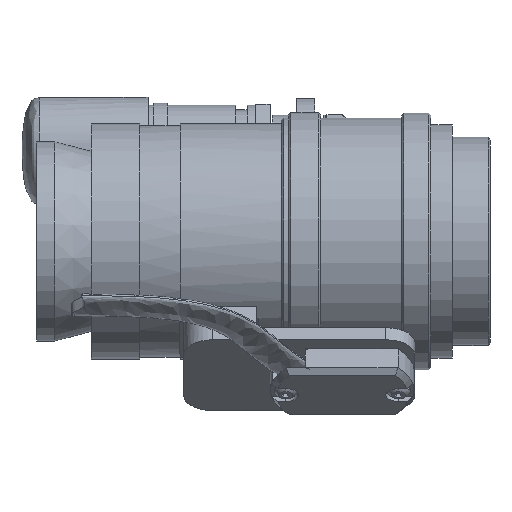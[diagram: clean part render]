
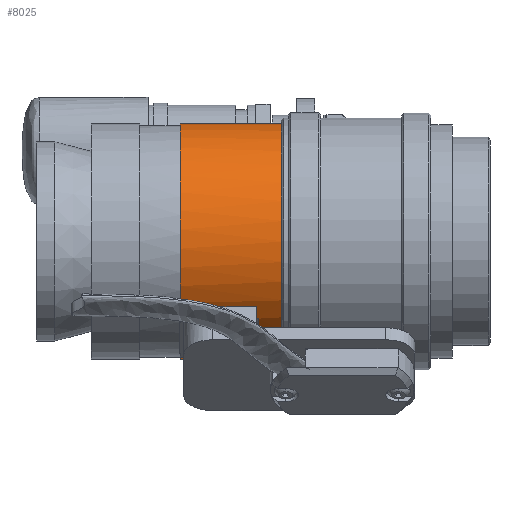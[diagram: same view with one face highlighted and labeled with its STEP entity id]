
A CAD part, left-side view. The second image highlights one B-rep face of the part: STEP entity #8025.
In plain terms, the highlighted cylindrical face has radius 20.637 mm (diameter 41.275 mm), a partial arc.
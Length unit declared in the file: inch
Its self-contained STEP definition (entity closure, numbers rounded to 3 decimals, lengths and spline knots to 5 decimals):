
#449 = VERTEX_POINT ( 'NONE', #4032 ) ;
#451 = VERTEX_POINT ( 'NONE', #7126 ) ;
#455 = VERTEX_POINT ( 'NONE', #4036 ) ;
#466 = VERTEX_POINT ( 'NONE', #4054 ) ;
#467 = VERTEX_POINT ( 'NONE', #4056 ) ;
#468 = VERTEX_POINT ( 'NONE', #4058 ) ;
#470 = VERTEX_POINT ( 'NONE', #4062 ) ;
#473 = VERTEX_POINT ( 'NONE', #4068 ) ;
#559 = ORIENTED_EDGE ( 'NONE', *, *, #1313, .F. ) ;
#570 = ORIENTED_EDGE ( 'NONE', *, *, #1326, .F. ) ;
#586 = ORIENTED_EDGE ( 'NONE', *, *, #1322, .T. ) ;
#592 = ORIENTED_EDGE ( 'NONE', *, *, #1327, .F. ) ;
#706 = ORIENTED_EDGE ( 'NONE', *, *, #1223, .F. ) ;
#1223 = EDGE_CURVE ( 'NONE', #6719, #6720, #3062, .T. ) ;
#1225 = EDGE_CURVE ( 'NONE', #4884, #6717, #3068, .T. ) ;
#1313 = EDGE_CURVE ( 'NONE', #451, #468, #2328, .T. ) ;
#1317 = EDGE_CURVE ( 'NONE', #455, #466, #5428, .T. ) ;
#1322 = EDGE_CURVE ( 'NONE', #6719, #468, #2056, .T. ) ;
#1325 = EDGE_CURVE ( 'NONE', #455, #4884, #2061, .T. ) ;
#1326 = EDGE_CURVE ( 'NONE', #449, #451, #5445, .T. ) ;
#1327 = EDGE_CURVE ( 'NONE', #470, #449, #5459, .T. ) ;
#1328 = EDGE_CURVE ( 'NONE', #470, #473, #2053, .T. ) ;
#1329 = EDGE_CURVE ( 'NONE', #467, #473, #5460, .T. ) ;
#1330 = EDGE_CURVE ( 'NONE', #466, #467, #5469, .T. ) ;
#1331 = EDGE_CURVE ( 'NONE', #6720, #6717, #2069, .T. ) ;
#2045 = VECTOR ( 'NONE', #5419, 39.37008 ) ;
#2050 = VECTOR ( 'NONE', #5430, 39.37008 ) ;
#2053 = CIRCLE ( 'NONE', #2067, 0.8125 ) ;
#2056 = CIRCLE ( 'NONE', #2059, 0.8125 ) ;
#2059 = AXIS2_PLACEMENT_3D ( 'NONE', #5447, #5448, #5449 ) ;
#2061 = CIRCLE ( 'NONE', #2063, 0.8125 ) ;
#2062 = VECTOR ( 'NONE', #5458, 39.37008 ) ;
#2063 = AXIS2_PLACEMENT_3D ( 'NONE', #5455, #5456, #5457 ) ;
#2064 = VECTOR ( 'NONE', #5462, 39.37008 ) ;
#2066 = VECTOR ( 'NONE', #5468, 39.37008 ) ;
#2067 = AXIS2_PLACEMENT_3D ( 'NONE', #5465, #5466, #5467 ) ;
#2068 = VECTOR ( 'NONE', #5471, 39.37008 ) ;
#2069 = CIRCLE ( 'NONE', #2071, 0.8125 ) ;
#2071 = AXIS2_PLACEMENT_3D ( 'NONE', #5474, #5475, #5476 ) ;
#2328 = LINE ( 'NONE', #5410, #2045 ) ;
#3056 = CARTESIAN_POINT ( 'NONE',  ( 0., 0., 0.8125 ) ) ;
#3061 = CARTESIAN_POINT ( 'NONE',  ( 0., 0., -0.8125 ) ) ;
#3062 = LINE ( 'NONE', #3056, #4866 ) ;
#3066 = DIRECTION ( 'NONE',  ( 0., -1., 0. ) ) ;
#3068 = LINE ( 'NONE', #3061, #4872 ) ;
#3073 = DIRECTION ( 'NONE',  ( 0., -1., 0. ) ) ;
#4032 = CARTESIAN_POINT ( 'NONE',  ( -0.61367, 0.1723, -0.53251 ) ) ;
#4036 = CARTESIAN_POINT ( 'NONE',  ( -0.15433, 0.6973, -0.79771 ) ) ;
#4054 = CARTESIAN_POINT ( 'NONE',  ( -0.15433, 0.6723, -0.79771 ) ) ;
#4056 = CARTESIAN_POINT ( 'NONE',  ( -0.15433, 0.1723, -0.79771 ) ) ;
#4058 = CARTESIAN_POINT ( 'NONE',  ( -0.61367, 0.6973, -0.53251 ) ) ;
#4062 = CARTESIAN_POINT ( 'NONE',  ( -0.61367, 0.1573, -0.53251 ) ) ;
#4068 = CARTESIAN_POINT ( 'NONE',  ( -0.15433, 0.1573, -0.79771 ) ) ;
#4441 = AXIS2_PLACEMENT_3D ( 'NONE', #7502, #7504, #7510 ) ;
#4866 = VECTOR ( 'NONE', #3066, 39.37008 ) ;
#4872 = VECTOR ( 'NONE', #3073, 39.37008 ) ;
#4884 = VERTEX_POINT ( 'NONE', #5747 ) ;
#5283 = ORIENTED_EDGE ( 'NONE', *, *, #1329, .F. ) ;
#5284 = ORIENTED_EDGE ( 'NONE', *, *, #1328, .T. ) ;
#5287 = ORIENTED_EDGE ( 'NONE', *, *, #1330, .F. ) ;
#5288 = ORIENTED_EDGE ( 'NONE', *, *, #1225, .T. ) ;
#5289 = ORIENTED_EDGE ( 'NONE', *, *, #1331, .F. ) ;
#5291 = ORIENTED_EDGE ( 'NONE', *, *, #1317, .F. ) ;
#5292 = ORIENTED_EDGE ( 'NONE', *, *, #1325, .T. ) ;
#5410 = CARTESIAN_POINT ( 'NONE',  ( -0.61367, 0., -0.53251 ) ) ;
#5419 = DIRECTION ( 'NONE',  ( 0., 1., 0. ) ) ;
#5428 = LINE ( 'NONE', #5429, #2050 ) ;
#5429 = CARTESIAN_POINT ( 'NONE',  ( -0.15433, 0., -0.79771 ) ) ;
#5430 = DIRECTION ( 'NONE',  ( 0., -1., 0. ) ) ;
#5445 = LINE ( 'NONE', #5446, #2062 ) ;
#5446 = CARTESIAN_POINT ( 'NONE',  ( -0.61367, 0., -0.53251 ) ) ;
#5447 = CARTESIAN_POINT ( 'NONE',  ( 0., 0.6973, 0. ) ) ;
#5448 = DIRECTION ( 'NONE',  ( 0., -1., 0. ) ) ;
#5449 = DIRECTION ( 'NONE',  ( 0., 0., -1. ) ) ;
#5454 = CARTESIAN_POINT ( 'NONE',  ( -0.15433, 0., -0.79771 ) ) ;
#5455 = CARTESIAN_POINT ( 'NONE',  ( 0., 0.6973, 0. ) ) ;
#5456 = DIRECTION ( 'NONE',  ( 0., -1., 0. ) ) ;
#5457 = DIRECTION ( 'NONE',  ( 0., 0., -1. ) ) ;
#5458 = DIRECTION ( 'NONE',  ( 0., 1., 0. ) ) ;
#5459 = LINE ( 'NONE', #5461, #2064 ) ;
#5460 = LINE ( 'NONE', #5454, #2066 ) ;
#5461 = CARTESIAN_POINT ( 'NONE',  ( -0.61367, 0., -0.53251 ) ) ;
#5462 = DIRECTION ( 'NONE',  ( 0., 1., 0. ) ) ;
#5465 = CARTESIAN_POINT ( 'NONE',  ( 0., 0.1573, 0. ) ) ;
#5466 = DIRECTION ( 'NONE',  ( 0., -1., 0. ) ) ;
#5467 = DIRECTION ( 'NONE',  ( 0., 0., -1. ) ) ;
#5468 = DIRECTION ( 'NONE',  ( 0., -1., 0. ) ) ;
#5469 = LINE ( 'NONE', #5470, #2068 ) ;
#5470 = CARTESIAN_POINT ( 'NONE',  ( -0.15433, 0., -0.79771 ) ) ;
#5471 = DIRECTION ( 'NONE',  ( 0., -1., 0. ) ) ;
#5474 = CARTESIAN_POINT ( 'NONE',  ( 0., -0.02, 0. ) ) ;
#5475 = DIRECTION ( 'NONE',  ( 0., -1., 0. ) ) ;
#5476 = DIRECTION ( 'NONE',  ( 0., 0., -1. ) ) ;
#5747 = CARTESIAN_POINT ( 'NONE',  ( 0., 0.6973, -0.8125 ) ) ;
#5797 = CARTESIAN_POINT ( 'NONE',  ( 0., -0.02, -0.8125 ) ) ;
#5799 = CARTESIAN_POINT ( 'NONE',  ( 0., 0.6973, 0.8125 ) ) ;
#5800 = CARTESIAN_POINT ( 'NONE',  ( 0., -0.02, 0.8125 ) ) ;
#6717 = VERTEX_POINT ( 'NONE', #5797 ) ;
#6719 = VERTEX_POINT ( 'NONE', #5799 ) ;
#6720 = VERTEX_POINT ( 'NONE', #5800 ) ;
#7126 = CARTESIAN_POINT ( 'NONE',  ( -0.61367, 0.66952, -0.53251 ) ) ;
#7254 = EDGE_LOOP ( 'NONE', ( #706, #586, #559, #570, #592, #5284, #5283, #5287, #5291, #5292, #5288, #5289 ) ) ;
#7502 = CARTESIAN_POINT ( 'NONE',  ( 0., 0., 0. ) ) ;
#7504 = DIRECTION ( 'NONE',  ( 0., -1., 0. ) ) ;
#7507 = CYLINDRICAL_SURFACE ( 'NONE', #4441, 0.8125 ) ;
#7508 = FACE_OUTER_BOUND ( 'NONE', #7254, .T. ) ;
#7510 = DIRECTION ( 'NONE',  ( 0., 0., -1. ) ) ;
#8025 = ADVANCED_FACE ( 'NONE', ( #7508 ), #7507, .T. ) ;
